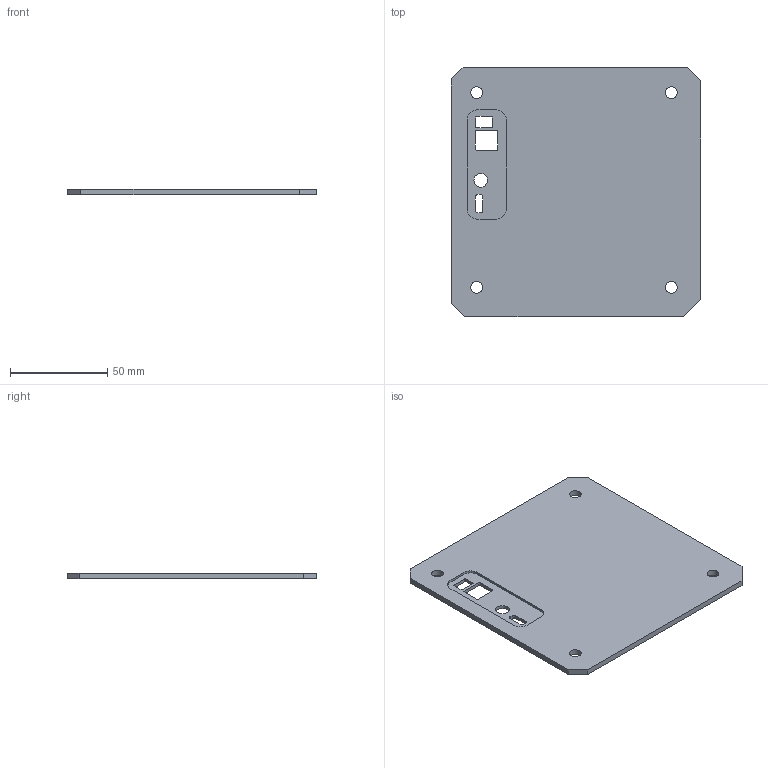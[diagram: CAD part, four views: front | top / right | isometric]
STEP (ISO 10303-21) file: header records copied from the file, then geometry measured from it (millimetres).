
FILE_DESCRIPTION(/* description */ ('STEP AP242','CAx-IF Rec.Pracs.---Representation and Presentation of Product Manufacturing Information (PMI)---4.0---2014-10-13','CAx-IF Rec.Pracs.---3D Tessellated Geometry---0.4---2014-09-14','2;1'),/* implementation_level */ '2;1');
FILE_NAME(/* name */ '67517243fb67772fa30a9e3b',/* time_stamp */ '2024-12-05T09:28:36Z',/* author */ (''),/* organization */ (''),/* preprocessor_version */ 'ST-DEVELOPER v20',/* originating_system */ 'ONSHAPE BY PTC INC, 1.190',/* authorisation */ ' ');
FILE_SCHEMA (('AP242_MANAGED_MODEL_BASED_3D_ENGINEERING_MIM_LF { 1 0 10303 442 1 1 4 }'));
Length unit declared in the file: metre
Products named in the file (1): L plate
Bounding box: 128 x 128 x 3 mm (x, y, z)
Volume: 46742.1 mm3; surface area: 33942.6 mm2
Topology: 1 solids, 1 shells, 48 faces, 135 edges, 90 vertices
Faces by surface type: plane 27, cylinder 21
Full cylindrical faces by diameter (mm): 6 x4, 7 x1
Entity records: 1590 total; most frequent: DIRECTION 270, CARTESIAN_POINT 269, ORIENTED_EDGE 260, EDGE_CURVE 130, AXIS2_PLACEMENT_3D 91, VERTEX_POINT 90, LINE 88, VECTOR 88
